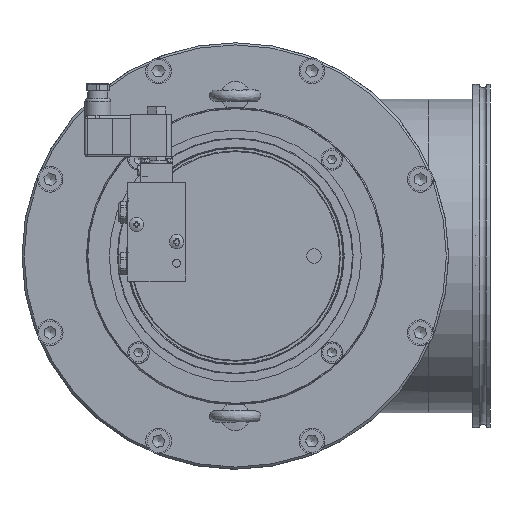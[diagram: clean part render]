
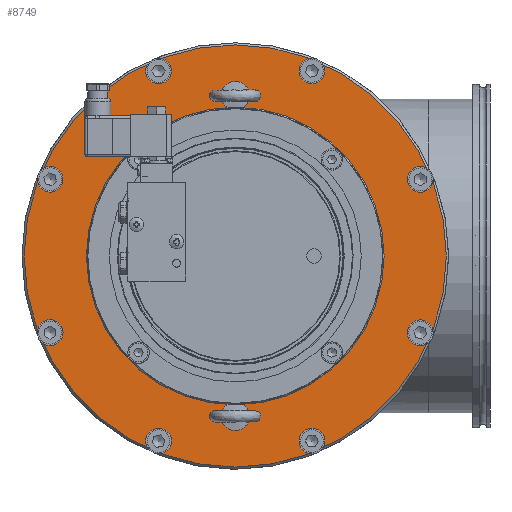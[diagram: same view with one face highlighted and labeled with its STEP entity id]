
A CAD part, left-side view. The second image highlights one B-rep face of the part: STEP entity #8749.
In plain terms, the highlighted planar face has unit normal (-1, 0, 0).
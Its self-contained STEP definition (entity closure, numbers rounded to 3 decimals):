
#7996=FACE_BOUND('',#10491,.T.);
#7997=FACE_BOUND('',#10492,.T.);
#7998=FACE_BOUND('',#10493,.T.);
#7999=FACE_BOUND('',#10494,.T.);
#8000=FACE_BOUND('',#10495,.T.);
#8001=FACE_BOUND('',#10496,.T.);
#8002=FACE_BOUND('',#10497,.T.);
#8003=FACE_BOUND('',#10498,.T.);
#8004=FACE_BOUND('',#10499,.T.);
#8005=FACE_BOUND('',#10500,.T.);
#8006=FACE_BOUND('',#10501,.T.);
#8007=FACE_BOUND('',#10502,.T.);
#8008=FACE_BOUND('',#10503,.T.);
#8009=FACE_BOUND('',#10504,.T.);
#8010=FACE_BOUND('',#10505,.T.);
#8011=FACE_BOUND('',#10506,.T.);
#8749=ADVANCED_FACE('BCT_REF_68270',(#7996,#7997,#7998,#7999,#8000,#8001,
#8002,#8003,#8004,#8005,#8006,#8007,#8008,#8009,#8010,#8011),#9237,.F.);
#9237=PLANE('',#17258);
#10491=EDGE_LOOP('',(#12887));
#10492=EDGE_LOOP('',(#12888));
#10493=EDGE_LOOP('',(#12889));
#10494=EDGE_LOOP('',(#12890));
#10495=EDGE_LOOP('',(#12891));
#10496=EDGE_LOOP('',(#12892));
#10497=EDGE_LOOP('',(#12893));
#10498=EDGE_LOOP('',(#12894));
#10499=EDGE_LOOP('',(#12895));
#10500=EDGE_LOOP('',(#12896));
#10501=EDGE_LOOP('',(#12897));
#10502=EDGE_LOOP('',(#12898));
#10503=EDGE_LOOP('',(#12899));
#10504=EDGE_LOOP('',(#12900));
#10505=EDGE_LOOP('',(#12901));
#10506=EDGE_LOOP('',(#12902));
#12887=ORIENTED_EDGE('',*,*,#15586,.T.);
#12888=ORIENTED_EDGE('',*,*,#15587,.T.);
#12889=ORIENTED_EDGE('',*,*,#15588,.F.);
#12890=ORIENTED_EDGE('',*,*,#15589,.T.);
#12891=ORIENTED_EDGE('',*,*,#15590,.T.);
#12892=ORIENTED_EDGE('',*,*,#15591,.T.);
#12893=ORIENTED_EDGE('',*,*,#15592,.T.);
#12894=ORIENTED_EDGE('',*,*,#15593,.T.);
#12895=ORIENTED_EDGE('',*,*,#15594,.T.);
#12896=ORIENTED_EDGE('',*,*,#15595,.T.);
#12897=ORIENTED_EDGE('',*,*,#15596,.T.);
#12898=ORIENTED_EDGE('',*,*,#15597,.T.);
#12899=ORIENTED_EDGE('',*,*,#15598,.T.);
#12900=ORIENTED_EDGE('',*,*,#15599,.T.);
#12901=ORIENTED_EDGE('',*,*,#15600,.T.);
#12902=ORIENTED_EDGE('',*,*,#15601,.T.);
#14287=VERTEX_POINT('',#25572);
#14288=VERTEX_POINT('',#25574);
#14289=VERTEX_POINT('',#25576);
#14290=VERTEX_POINT('',#25578);
#14291=VERTEX_POINT('',#25580);
#14292=VERTEX_POINT('',#25582);
#14293=VERTEX_POINT('',#25584);
#14294=VERTEX_POINT('',#25586);
#14295=VERTEX_POINT('',#25588);
#14296=VERTEX_POINT('',#25590);
#14297=VERTEX_POINT('',#25592);
#14298=VERTEX_POINT('',#25594);
#14299=VERTEX_POINT('',#25596);
#14300=VERTEX_POINT('',#25598);
#14301=VERTEX_POINT('',#25600);
#14302=VERTEX_POINT('',#25602);
#15586=EDGE_CURVE('BCT_REF_68195',#14287,#14287,#16263,.T.);
#15587=EDGE_CURVE('BCT_REF_68231',#14288,#14288,#16264,.T.);
#15588=EDGE_CURVE('',#14289,#14289,#16265,.T.);
#15589=EDGE_CURVE('',#14290,#14290,#16266,.T.);
#15590=EDGE_CURVE('',#14291,#14291,#16267,.T.);
#15591=EDGE_CURVE('',#14292,#14292,#16268,.T.);
#15592=EDGE_CURVE('',#14293,#14293,#16269,.T.);
#15593=EDGE_CURVE('',#14294,#14294,#16270,.T.);
#15594=EDGE_CURVE('',#14295,#14295,#16271,.T.);
#15595=EDGE_CURVE('',#14296,#14296,#16272,.T.);
#15596=EDGE_CURVE('',#14297,#14297,#16273,.T.);
#15597=EDGE_CURVE('',#14298,#14298,#16274,.T.);
#15598=EDGE_CURVE('',#14299,#14299,#16275,.T.);
#15599=EDGE_CURVE('',#14300,#14300,#16276,.T.);
#15600=EDGE_CURVE('',#14301,#14301,#16277,.T.);
#15601=EDGE_CURVE('',#14302,#14302,#16278,.T.);
#16263=CIRCLE('',#17242,88.75);
#16264=CIRCLE('',#17243,147.5);
#16265=CIRCLE('',#17244,3.4);
#16266=CIRCLE('',#17245,3.4);
#16267=CIRCLE('',#17246,4.25);
#16268=CIRCLE('',#17247,4.25);
#16269=CIRCLE('',#17248,4.25);
#16270=CIRCLE('',#17249,4.25);
#16271=CIRCLE('',#17250,5.5);
#16272=CIRCLE('',#17251,5.5);
#16273=CIRCLE('',#17252,5.5);
#16274=CIRCLE('',#17253,5.5);
#16275=CIRCLE('',#17254,5.5);
#16276=CIRCLE('',#17255,5.5);
#16277=CIRCLE('',#17256,5.5);
#16278=CIRCLE('',#17257,5.5);
#17242=AXIS2_PLACEMENT_3D('',#25571,#19796,#19797);
#17243=AXIS2_PLACEMENT_3D('',#25573,#19798,#19799);
#17244=AXIS2_PLACEMENT_3D('',#25575,#19800,#19801);
#17245=AXIS2_PLACEMENT_3D('',#25577,#19802,#19803);
#17246=AXIS2_PLACEMENT_3D('',#25579,#19804,#19805);
#17247=AXIS2_PLACEMENT_3D('',#25581,#19806,#19807);
#17248=AXIS2_PLACEMENT_3D('',#25583,#19808,#19809);
#17249=AXIS2_PLACEMENT_3D('',#25585,#19810,#19811);
#17250=AXIS2_PLACEMENT_3D('',#25587,#19812,#19813);
#17251=AXIS2_PLACEMENT_3D('',#25589,#19814,#19815);
#17252=AXIS2_PLACEMENT_3D('',#25591,#19816,#19817);
#17253=AXIS2_PLACEMENT_3D('',#25593,#19818,#19819);
#17254=AXIS2_PLACEMENT_3D('',#25595,#19820,#19821);
#17255=AXIS2_PLACEMENT_3D('',#25597,#19822,#19823);
#17256=AXIS2_PLACEMENT_3D('',#25599,#19824,#19825);
#17257=AXIS2_PLACEMENT_3D('',#25601,#19826,#19827);
#17258=AXIS2_PLACEMENT_3D('',#25603,#19828,#19829);
#19796=DIRECTION('',(1.,0.,0.));
#19797=DIRECTION('',(0.,0.,-1.));
#19798=DIRECTION('',(-1.,0.,0.));
#19799=DIRECTION('',(0.,0.,-1.));
#19800=DIRECTION('',(-1.,0.,0.));
#19801=DIRECTION('',(0.,0.,-1.));
#19802=DIRECTION('',(1.,0.,0.));
#19803=DIRECTION('',(0.,0.,-1.));
#19804=DIRECTION('',(1.,0.,0.));
#19805=DIRECTION('',(0.,-1.,0.));
#19806=DIRECTION('',(1.,0.,0.));
#19807=DIRECTION('',(0.,0.,1.));
#19808=DIRECTION('',(1.,0.,0.));
#19809=DIRECTION('',(0.,1.,0.));
#19810=DIRECTION('',(1.,0.,0.));
#19811=DIRECTION('',(0.,0.,-1.));
#19812=DIRECTION('',(1.,0.,0.));
#19813=DIRECTION('',(0.,-0.707,-0.707));
#19814=DIRECTION('',(1.,0.,0.));
#19815=DIRECTION('',(0.,-1.,0.));
#19816=DIRECTION('',(1.,0.,0.));
#19817=DIRECTION('',(0.,-0.707,0.707));
#19818=DIRECTION('',(1.,0.,0.));
#19819=DIRECTION('',(0.,0.,1.));
#19820=DIRECTION('',(1.,0.,0.));
#19821=DIRECTION('',(0.,0.707,0.707));
#19822=DIRECTION('',(1.,0.,0.));
#19823=DIRECTION('',(0.,1.,0.));
#19824=DIRECTION('',(1.,0.,0.));
#19825=DIRECTION('',(0.,0.707,-0.707));
#19826=DIRECTION('',(1.,0.,0.));
#19827=DIRECTION('',(0.,0.,-1.));
#19828=DIRECTION('',(1.,0.,0.));
#19829=DIRECTION('',(0.,0.,-1.));
#25571=CARTESIAN_POINT('',(0.,0.,0.));
#25572=CARTESIAN_POINT('',(0.,0.,-88.75));
#25573=CARTESIAN_POINT('',(0.,0.,0.));
#25574=CARTESIAN_POINT('',(0.,0.,-147.5));
#25575=CARTESIAN_POINT('',(0.,-112.,0.));
#25576=CARTESIAN_POINT('',(0.,-112.,-3.4));
#25577=CARTESIAN_POINT('',(0.,112.,0.));
#25578=CARTESIAN_POINT('',(0.,112.,-3.4));
#25579=CARTESIAN_POINT('',(0.,67.529,67.529));
#25580=CARTESIAN_POINT('',(0.,63.279,67.529));
#25581=CARTESIAN_POINT('',(0.,67.529,-67.529));
#25582=CARTESIAN_POINT('',(0.,67.529,-63.279));
#25583=CARTESIAN_POINT('',(0.,-67.529,-67.529));
#25584=CARTESIAN_POINT('',(0.,-63.279,-67.529));
#25585=CARTESIAN_POINT('',(0.,-67.529,67.529));
#25586=CARTESIAN_POINT('',(0.,-67.529,63.279));
#25587=CARTESIAN_POINT('',(0.,53.576,129.343));
#25588=CARTESIAN_POINT('',(0.,49.687,125.454));
#25589=CARTESIAN_POINT('',(0.,129.343,53.576));
#25590=CARTESIAN_POINT('',(0.,123.843,53.576));
#25591=CARTESIAN_POINT('',(0.,129.343,-53.576));
#25592=CARTESIAN_POINT('',(0.,125.454,-49.687));
#25593=CARTESIAN_POINT('',(0.,53.576,-129.343));
#25594=CARTESIAN_POINT('',(0.,53.576,-123.843));
#25595=CARTESIAN_POINT('',(0.,-53.576,-129.343));
#25596=CARTESIAN_POINT('',(0.,-49.687,-125.454));
#25597=CARTESIAN_POINT('',(0.,-129.343,-53.576));
#25598=CARTESIAN_POINT('',(0.,-123.843,-53.576));
#25599=CARTESIAN_POINT('',(0.,-129.343,53.576));
#25600=CARTESIAN_POINT('',(0.,-125.454,49.687));
#25601=CARTESIAN_POINT('',(0.,-53.576,129.343));
#25602=CARTESIAN_POINT('',(0.,-53.576,123.843));
#25603=CARTESIAN_POINT('',(0.,0.,149.));
